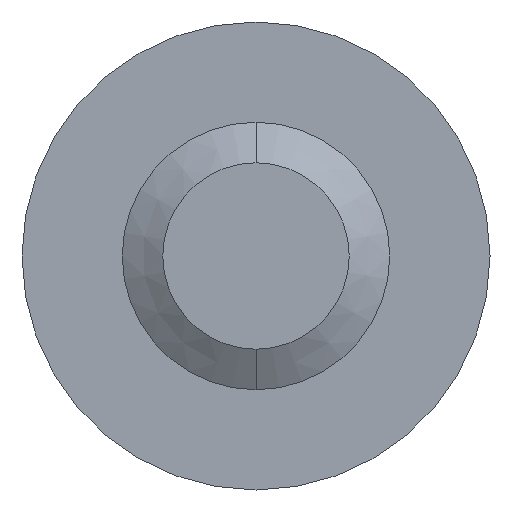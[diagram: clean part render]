
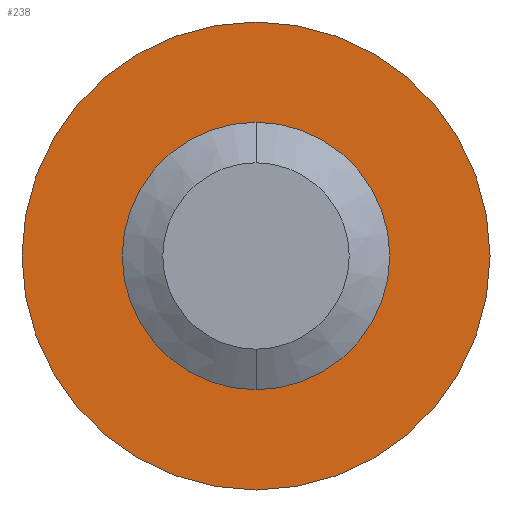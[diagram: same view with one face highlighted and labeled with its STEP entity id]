
A CAD part, front view. The second image highlights one B-rep face of the part: STEP entity #238.
In plain terms, the highlighted planar face has unit normal (0, -1, 0).
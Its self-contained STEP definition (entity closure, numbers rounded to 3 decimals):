
#18 = EDGE_CURVE ( 'NONE', #1897, #1433, #609, .T. ) ;
#50 = DIRECTION ( 'NONE',  ( 0., 0., 1. ) ) ;
#77 = CIRCLE ( 'NONE', #1204, 2. ) ;
#124 = EDGE_CURVE ( 'NONE', #1213, #2517, #77, .T. ) ;
#144 = CARTESIAN_POINT ( 'NONE',  ( 0., 20., 0. ) ) ;
#156 = CIRCLE ( 'NONE', #572, 2. ) ;
#204 = DIRECTION ( 'NONE',  ( 0., 0., 1. ) ) ;
#226 = EDGE_LOOP ( 'NONE', ( #2233, #665 ) ) ;
#238 = ADVANCED_FACE ( 'NONE', ( #3285, #2720 ), #1598, .F. ) ;
#386 = AXIS2_PLACEMENT_3D ( 'NONE', #3024, #3601, #3618 ) ;
#503 = DIRECTION ( 'NONE',  ( 0., 0., 1. ) ) ;
#572 = AXIS2_PLACEMENT_3D ( 'NONE', #3170, #3221, #50 ) ;
#609 = CIRCLE ( 'NONE', #731, 3.5 ) ;
#665 = ORIENTED_EDGE ( 'NONE', *, *, #1452, .F. ) ;
#731 = AXIS2_PLACEMENT_3D ( 'NONE', #2012, #3068, #503 ) ;
#870 = ORIENTED_EDGE ( 'NONE', *, *, #2019, .T. ) ;
#1204 = AXIS2_PLACEMENT_3D ( 'NONE', #2665, #1782, #2342 ) ;
#1213 = VERTEX_POINT ( 'NONE', #1969 ) ;
#1302 = DIRECTION ( 'NONE',  ( 0., 1., 0. ) ) ;
#1433 = VERTEX_POINT ( 'NONE', #3336 ) ;
#1452 = EDGE_CURVE ( 'NONE', #1433, #1897, #1458, .T. ) ;
#1458 = CIRCLE ( 'NONE', #386, 3.5 ) ;
#1598 = PLANE ( 'NONE',  #2699 ) ;
#1782 = DIRECTION ( 'NONE',  ( 0., 1., 0. ) ) ;
#1897 = VERTEX_POINT ( 'NONE', #3078 ) ;
#1969 = CARTESIAN_POINT ( 'NONE',  ( 0., 20., -2. ) ) ;
#2012 = CARTESIAN_POINT ( 'NONE',  ( 0., 20., 0. ) ) ;
#2019 = EDGE_CURVE ( 'NONE', #2517, #1213, #156, .T. ) ;
#2233 = ORIENTED_EDGE ( 'NONE', *, *, #18, .F. ) ;
#2342 = DIRECTION ( 'NONE',  ( 0., 0., 1. ) ) ;
#2399 = ORIENTED_EDGE ( 'NONE', *, *, #124, .T. ) ;
#2517 = VERTEX_POINT ( 'NONE', #2745 ) ;
#2665 = CARTESIAN_POINT ( 'NONE',  ( 0., 20., 0. ) ) ;
#2699 = AXIS2_PLACEMENT_3D ( 'NONE', #144, #1302, #204 ) ;
#2720 = FACE_BOUND ( 'NONE', #3385, .T. ) ;
#2745 = CARTESIAN_POINT ( 'NONE',  ( 0., 20., 2. ) ) ;
#3024 = CARTESIAN_POINT ( 'NONE',  ( 0., 20., 0. ) ) ;
#3068 = DIRECTION ( 'NONE',  ( 0., 1., 0. ) ) ;
#3078 = CARTESIAN_POINT ( 'NONE',  ( 0., 20., -3.5 ) ) ;
#3170 = CARTESIAN_POINT ( 'NONE',  ( 0., 20., 0. ) ) ;
#3221 = DIRECTION ( 'NONE',  ( 0., 1., 0. ) ) ;
#3285 = FACE_OUTER_BOUND ( 'NONE', #226, .T. ) ;
#3336 = CARTESIAN_POINT ( 'NONE',  ( 0., 20., 3.5 ) ) ;
#3385 = EDGE_LOOP ( 'NONE', ( #2399, #870 ) ) ;
#3601 = DIRECTION ( 'NONE',  ( 0., 1., 0. ) ) ;
#3618 = DIRECTION ( 'NONE',  ( 0., 0., 1. ) ) ;
